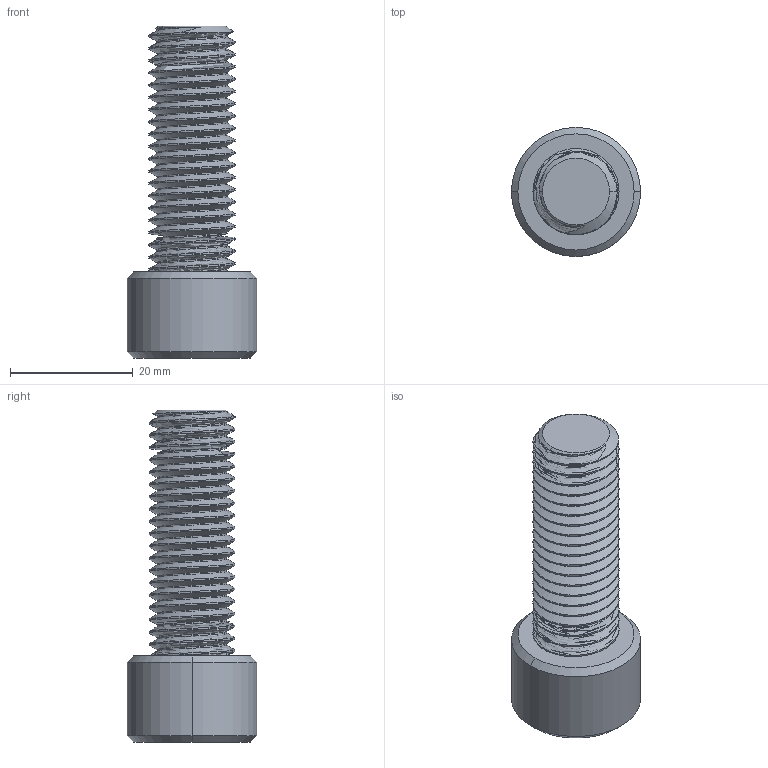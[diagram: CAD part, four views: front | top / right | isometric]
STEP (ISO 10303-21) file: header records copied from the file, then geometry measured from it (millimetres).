
FILE_DESCRIPTION (( 'STEP AP203' ), '1' );
FILE_NAME ('SOCKET HEAD CAP SCREW M14 x 2 mm Thread 40 mm Long.STEP', '2017-03-06T13:51:51', ( 'itdept' ), ( '' ), 'SwSTEP 2.0', 'SolidWorks 2016', '' );
FILE_SCHEMA (( 'CONFIG_CONTROL_DESIGN' ));
Length unit declared in the file: millimetre
Products named in the file (1): SOCKET HEAD CAP SCREW M14 x 2 mm Thread 40 mm Long
Bounding box: 21 x 21 x 54 mm (x, y, z)
Volume: 8726.8 mm3; surface area: 4649 mm2
Topology: 1 solids, 1 shells, 108 faces, 296 edges, 192 vertices
Faces by surface type: cylinder 83, cone 13, plane 10, bspline 2
Entity records: 5483 total; most frequent: CARTESIAN_POINT 3170, ORIENTED_EDGE 592, DIRECTION 356, EDGE_CURVE 296, VERTEX_POINT 192, AXIS2_PLACEMENT_3D 128, EDGE_LOOP 110, ADVANCED_FACE 108
